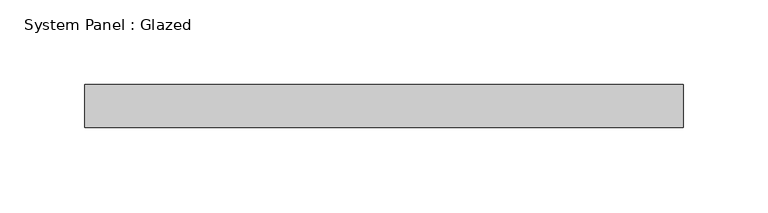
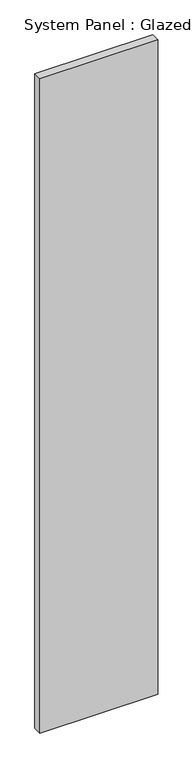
"""IFC4 building model written with IfcOpenShell, lengths in millimetres: plate geometry, System Panel : Glazed."""

from ifc_helpers import new_model, si_unit, origin, origin_with_axes, place, context, project, spatial, polyline, outline, extrude, source, transform, mapped, element, save


def system_panel_glazed_f6aa3a43(model_context):
    return source(origin(), model_context, "Body", "SweptSolid", [
        extrude(outline(polyline([(176.4392857, 19.05), (-176.4392857, 19.05), (-176.4392857, 44.45), (176.4392857, 44.45), (176.4392857, 19.05)])), origin_with_axes(), (0.0, 0.0, 1.0), 2070.1),
    ])


if __name__ == "__main__":
    model = new_model("IFC4")
    model_context = context("Model", 3, world=origin())
    ifc_project = project(units=[si_unit("LENGTHUNIT", "METRE", prefix="MILLI")], contexts=[model_context])
    site = spatial("IfcSite", under=ifc_project)
    building = spatial("IfcBuilding", under=site)
    placement = place(None, origin())
    system_panel_glazed_shape = system_panel_glazed_f6aa3a43(model_context)
    element("IfcPlate", 1, ObjectType="System Panel : Glazed", at=placement, inside=building, context=model_context, shape_type="MappedRepresentation", body=[
        mapped(system_panel_glazed_shape, transform((0.0, 0.0, 0.0), x_axis=(1.0, 0.0, 0.0), y_axis=(0.0, 1.0, 0.0), z_axis=(0.0, 0.0, 1.0))),
    ])
    save(model, "model.ifc")
